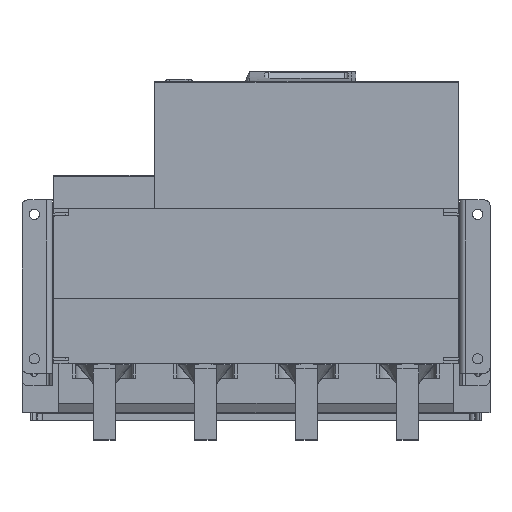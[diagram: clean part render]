
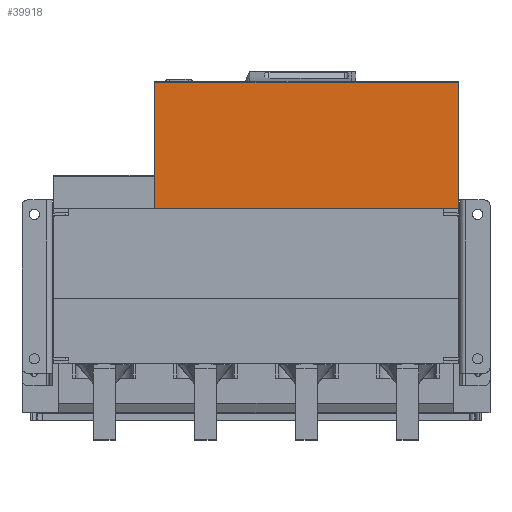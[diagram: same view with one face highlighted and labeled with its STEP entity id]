
A CAD part, top view. The second image highlights one B-rep face of the part: STEP entity #39918.
In plain terms, the highlighted planar face has unit normal (0, 0, 1).
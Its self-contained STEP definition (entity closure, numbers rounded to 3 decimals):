
#32344=DIRECTION('',(1.,0.,0.));
#32345=VECTOR('',#32344,210.);
#32346=CARTESIAN_POINT('',(-105.,0.,137.5));
#32347=LINE('',#32346,#32345);
#32570=DIRECTION('',(0.,1.,0.));
#32571=VECTOR('',#32570,87.5);
#32572=CARTESIAN_POINT('',(105.,0.,137.5));
#32573=LINE('',#32572,#32571);
#33236=DIRECTION('',(1.,0.,0.));
#33237=VECTOR('',#33236,210.);
#33238=CARTESIAN_POINT('',(-105.,87.5,137.5));
#33239=LINE('',#33238,#33237);
#33435=DIRECTION('',(0.,1.,0.));
#33436=VECTOR('',#33435,87.5);
#33437=CARTESIAN_POINT('',(-105.,0.,137.5));
#33438=LINE('',#33437,#33436);
#38022=CARTESIAN_POINT('',(-105.,0.,137.5));
#38024=VERTEX_POINT('',#38022);
#38025=CARTESIAN_POINT('',(105.,0.,137.5));
#38026=VERTEX_POINT('',#38025);
#38845=CARTESIAN_POINT('',(-105.,87.5,137.5));
#38846=VERTEX_POINT('',#38845);
#38851=CARTESIAN_POINT('',(105.,87.5,137.5));
#38852=VERTEX_POINT('',#38851);
#39907=CARTESIAN_POINT('',(-105.,0.,137.5));
#39908=DIRECTION('',(0.,0.,1.));
#39909=DIRECTION('',(1.,0.,0.));
#39910=AXIS2_PLACEMENT_3D('',#39907,#39908,#39909);
#39911=PLANE('',#39910);
#39912=ORIENTED_EDGE('',*,*,#39769,.T.);
#39913=ORIENTED_EDGE('',*,*,#39343,.F.);
#39914=ORIENTED_EDGE('',*,*,#39090,.F.);
#39915=ORIENTED_EDGE('',*,*,#39574,.T.);
#39916=EDGE_LOOP('',(#39912,#39913,#39914,#39915));
#39917=FACE_OUTER_BOUND('',#39916,.F.);
#39918=ADVANCED_FACE('',(#39917),#39911,.T.);
#39090=EDGE_CURVE('',#38024,#38026,#32347,.T.);
#39343=EDGE_CURVE('',#38026,#38852,#32573,.T.);
#39574=EDGE_CURVE('',#38024,#38846,#33438,.T.);
#39769=EDGE_CURVE('',#38846,#38852,#33239,.T.);
